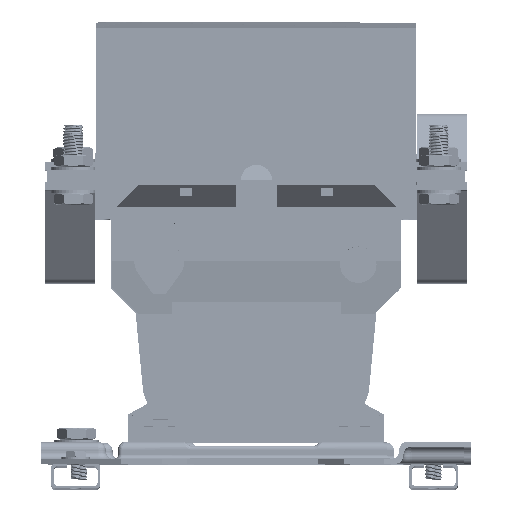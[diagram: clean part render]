
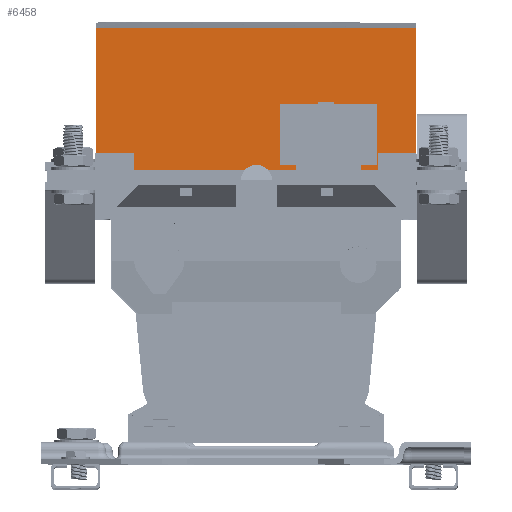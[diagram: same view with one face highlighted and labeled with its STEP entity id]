
A CAD part, top view. The second image highlights one B-rep face of the part: STEP entity #6458.
In plain terms, the highlighted planar face has unit normal (0, 0, 1).
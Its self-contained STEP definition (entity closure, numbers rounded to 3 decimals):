
#1479 = CARTESIAN_POINT ( 'NONE',  ( -77.235, 60.555, 76.22 ) ) ;
#2696 = DIRECTION ( 'NONE',  ( 0., -1., 0. ) ) ;
#2760 = CARTESIAN_POINT ( 'NONE',  ( 43.199, 60.555, 76.22 ) ) ;
#4299 = CARTESIAN_POINT ( 'NONE',  ( 61.982, 52.555, 76.22 ) ) ;
#4461 = VECTOR ( 'NONE', #48476, 1000. ) ;
#4689 = EDGE_CURVE ( 'NONE', #18632, #46488, #5857, .T. ) ;
#4781 = ORIENTED_EDGE ( 'NONE', *, *, #26226, .T. ) ;
#4845 = VERTEX_POINT ( 'NONE', #27134 ) ;
#4939 = CARTESIAN_POINT ( 'NONE',  ( 61.982, 60.555, 76.22 ) ) ;
#5857 = LINE ( 'NONE', #12295, #15817 ) ;
#6458 = ADVANCED_FACE ( 'NONE', ( #19635 ), #9635, .F. ) ;
#7117 = EDGE_LOOP ( 'NONE', ( #39929, #49728, #37155, #43225, #4781, #44802, #55117, #15052 ) ) ;
#7153 = LINE ( 'NONE', #44220, #4461 ) ;
#7366 = AXIS2_PLACEMENT_3D ( 'NONE', #23048, #27290, #35864 ) ;
#7660 = CARTESIAN_POINT ( 'NONE',  ( 61.982, 122.555, 76.22 ) ) ;
#8966 = EDGE_CURVE ( 'NONE', #17833, #34315, #45368, .T. ) ;
#9635 = PLANE ( 'NONE',  #7366 ) ;
#11228 = CARTESIAN_POINT ( 'NONE',  ( -96.018, 52.555, 76.22 ) ) ;
#12295 = CARTESIAN_POINT ( 'NONE',  ( -77.235, 60.555, 76.22 ) ) ;
#12390 = EDGE_CURVE ( 'NONE', #28261, #17833, #18421, .T. ) ;
#15052 = ORIENTED_EDGE ( 'NONE', *, *, #4689, .T. ) ;
#15817 = VECTOR ( 'NONE', #25318, 1000. ) ;
#16255 = VECTOR ( 'NONE', #42034, 1000. ) ;
#17109 = DIRECTION ( 'NONE',  ( -1., 0., 0. ) ) ;
#17560 = LINE ( 'NONE', #4299, #27543 ) ;
#17833 = VERTEX_POINT ( 'NONE', #2760 ) ;
#18421 = LINE ( 'NONE', #22549, #48344 ) ;
#18632 = VERTEX_POINT ( 'NONE', #1479 ) ;
#18848 = CARTESIAN_POINT ( 'NONE',  ( -96.018, 60.555, 76.22 ) ) ;
#18866 = VECTOR ( 'NONE', #2696, 1000. ) ;
#19635 = FACE_OUTER_BOUND ( 'NONE', #7117, .T. ) ;
#21550 = LINE ( 'NONE', #11228, #18866 ) ;
#22208 = CARTESIAN_POINT ( 'NONE',  ( -77.235, 52.555, 76.22 ) ) ;
#22549 = CARTESIAN_POINT ( 'NONE',  ( 61.982, 60.555, 76.22 ) ) ;
#23048 = CARTESIAN_POINT ( 'NONE',  ( 61.982, 52.555, 76.22 ) ) ;
#23090 = EDGE_CURVE ( 'NONE', #44089, #31847, #21550, .T. ) ;
#23542 = DIRECTION ( 'NONE',  ( -1., 0., 0. ) ) ;
#25318 = DIRECTION ( 'NONE',  ( 0., -1., 0. ) ) ;
#26226 = EDGE_CURVE ( 'NONE', #4845, #44089, #28269, .T. ) ;
#26340 = CARTESIAN_POINT ( 'NONE',  ( -96.018, 60.555, 76.22 ) ) ;
#26798 = CARTESIAN_POINT ( 'NONE',  ( -96.018, 122.555, 76.22 ) ) ;
#27134 = CARTESIAN_POINT ( 'NONE',  ( 61.982, 122.555, 76.22 ) ) ;
#27290 = DIRECTION ( 'NONE',  ( 0., 0., -1. ) ) ;
#27543 = VECTOR ( 'NONE', #17109, 1000. ) ;
#28261 = VERTEX_POINT ( 'NONE', #4939 ) ;
#28269 = LINE ( 'NONE', #7660, #16255 ) ;
#31847 = VERTEX_POINT ( 'NONE', #26340 ) ;
#32663 = CARTESIAN_POINT ( 'NONE',  ( 43.199, 60.555, 76.22 ) ) ;
#33284 = VECTOR ( 'NONE', #23542, 1000. ) ;
#34315 = VERTEX_POINT ( 'NONE', #43999 ) ;
#35864 = DIRECTION ( 'NONE',  ( 0., 1., 0. ) ) ;
#37133 = DIRECTION ( 'NONE',  ( 0., -1., 0. ) ) ;
#37155 = ORIENTED_EDGE ( 'NONE', *, *, #12390, .F. ) ;
#39929 = ORIENTED_EDGE ( 'NONE', *, *, #45655, .F. ) ;
#42034 = DIRECTION ( 'NONE',  ( -1., 0., 0. ) ) ;
#43225 = ORIENTED_EDGE ( 'NONE', *, *, #48950, .F. ) ;
#43999 = CARTESIAN_POINT ( 'NONE',  ( 43.199, 52.555, 76.22 ) ) ;
#44050 = VECTOR ( 'NONE', #37133, 1000. ) ;
#44089 = VERTEX_POINT ( 'NONE', #26798 ) ;
#44220 = CARTESIAN_POINT ( 'NONE',  ( 61.982, 52.555, 76.22 ) ) ;
#44802 = ORIENTED_EDGE ( 'NONE', *, *, #23090, .T. ) ;
#45368 = LINE ( 'NONE', #32663, #44050 ) ;
#45655 = EDGE_CURVE ( 'NONE', #34315, #46488, #17560, .T. ) ;
#46488 = VERTEX_POINT ( 'NONE', #22208 ) ;
#48344 = VECTOR ( 'NONE', #52245, 1000. ) ;
#48476 = DIRECTION ( 'NONE',  ( 0., -1., 0. ) ) ;
#48950 = EDGE_CURVE ( 'NONE', #4845, #28261, #7153, .T. ) ;
#49728 = ORIENTED_EDGE ( 'NONE', *, *, #8966, .F. ) ;
#52245 = DIRECTION ( 'NONE',  ( -1., 0., 0. ) ) ;
#53514 = EDGE_CURVE ( 'NONE', #18632, #31847, #53916, .T. ) ;
#53916 = LINE ( 'NONE', #18848, #33284 ) ;
#55117 = ORIENTED_EDGE ( 'NONE', *, *, #53514, .F. ) ;
